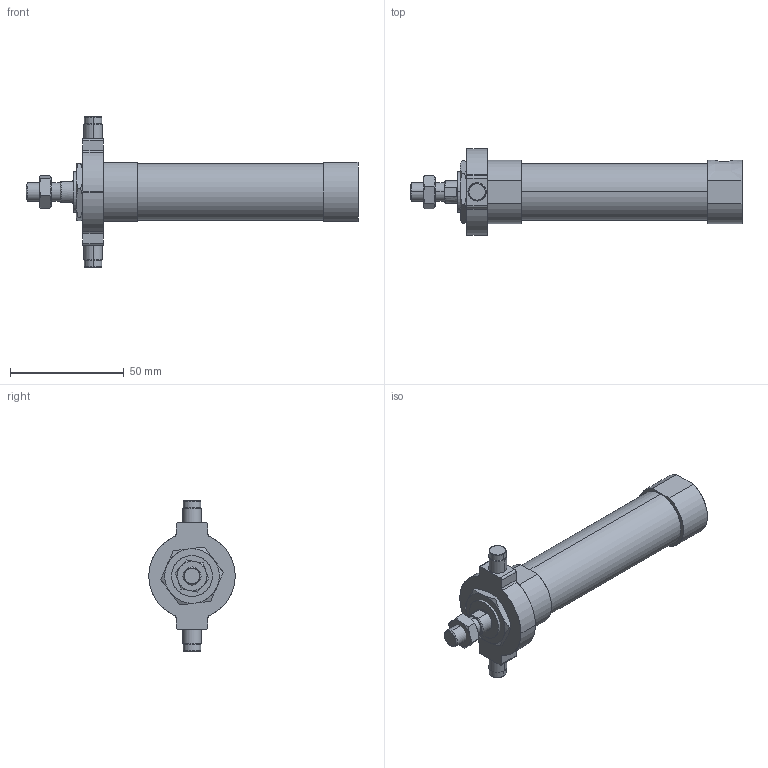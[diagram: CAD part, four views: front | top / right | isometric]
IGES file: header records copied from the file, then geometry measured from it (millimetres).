
Start section: SolidWorks IGES file using analytic representation for surfaces
Global section: file name: C:\Users\Toshiba\Desktop\JGND1-20-15(25)-T.IGS; native system: SolidWorks 2014; preprocessor: SolidWorks 2014; author: Toshiba; date: 160804.101334; units: millimetre
Bounding box: 146 x 38 x 66 mm (x, y, z)
Surface area: 17841.2 mm2 (no closed solid volume)
Topology: 0 solids, 0 shells, 120 faces, 1866 edges, 1866 vertices
Faces by surface type: bspline 67, revolution 53
